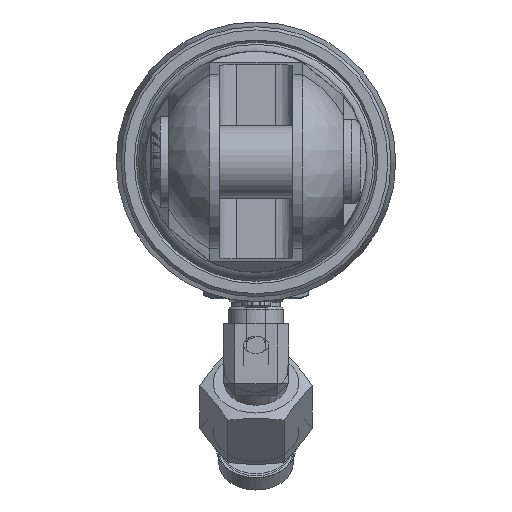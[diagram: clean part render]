
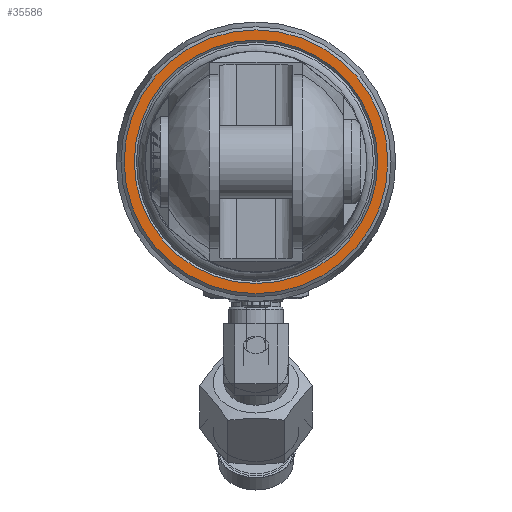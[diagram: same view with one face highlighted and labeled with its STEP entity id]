
A CAD part, left-side view. The second image highlights one B-rep face of the part: STEP entity #35586.
In plain terms, the highlighted planar face has unit normal (-1, 0, 0).
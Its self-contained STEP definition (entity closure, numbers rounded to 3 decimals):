
#279=FACE_BOUND('',#6226,.T.);
#1289=CIRCLE('',#37224,21.25);
#1304=CIRCLE('',#37244,23.025);
#4359=FACE_OUTER_BOUND('',#6225,.T.);
#6225=EDGE_LOOP('',(#30310));
#6226=EDGE_LOOP('',(#30311));
#15762=VERTEX_POINT('',#65445);
#15780=VERTEX_POINT('',#65963);
#20661=EDGE_CURVE('',#15762,#15762,#1289,.T.);
#20685=EDGE_CURVE('',#15780,#15780,#1304,.T.);
#30310=ORIENTED_EDGE('',*,*,#20685,.F.);
#30311=ORIENTED_EDGE('',*,*,#20661,.F.);
#32100=PLANE('',#37243);
#35586=ADVANCED_FACE('',(#4359,#279),#32100,.T.);
#37224=AXIS2_PLACEMENT_3D('',#65446,#43186,#43187);
#37243=AXIS2_PLACEMENT_3D('',#65962,#43229,#43230);
#37244=AXIS2_PLACEMENT_3D('',#65964,#43231,#43232);
#43186=DIRECTION('center_axis',(-1.,0.,0.));
#43187=DIRECTION('ref_axis',(0.,1.,0.));
#43229=DIRECTION('center_axis',(-1.,0.,0.));
#43230=DIRECTION('ref_axis',(0.,0.,1.));
#43231=DIRECTION('center_axis',(1.,0.,0.));
#43232=DIRECTION('ref_axis',(0.,-1.,0.));
#65445=CARTESIAN_POINT('',(0.,-21.25,0.));
#65446=CARTESIAN_POINT('Origin',(0.,0.,0.));
#65962=CARTESIAN_POINT('Origin',(0.,0.,0.));
#65963=CARTESIAN_POINT('',(0.,23.025,0.));
#65964=CARTESIAN_POINT('Origin',(0.,0.,0.));
